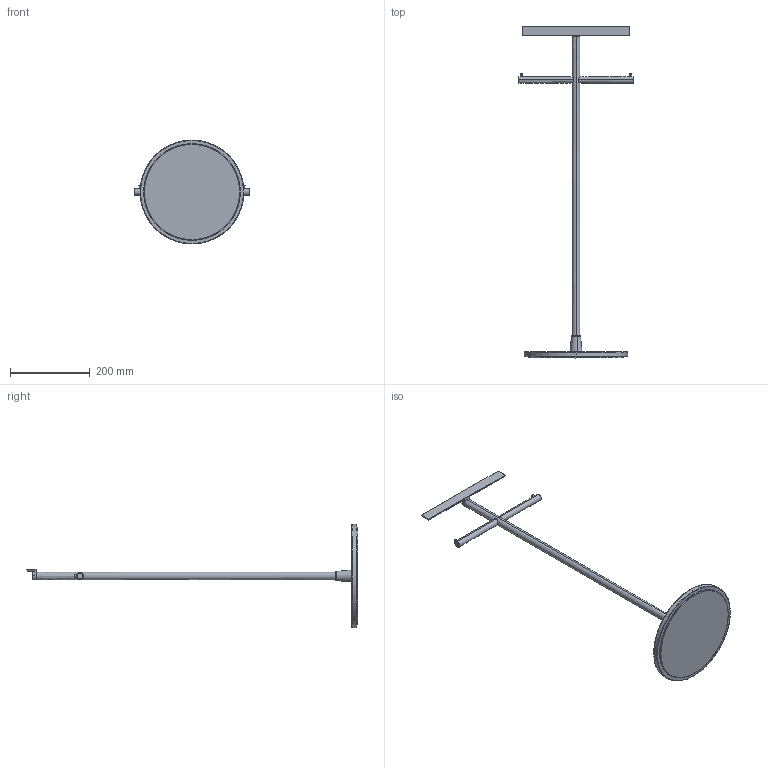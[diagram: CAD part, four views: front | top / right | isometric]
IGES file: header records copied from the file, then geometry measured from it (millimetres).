
Start section:  PTC IGES file: yh63sdt1.igs
Global section: file name: yh63sdt1.igs; native system: Pro/ENGINEER by Parametric Technology Corporation; preprocessor: 2010180; author: damjan; organization: Unknown; date: 20110223.123222; units: millimetre
Bounding box: 290 x 830 x 260 mm (x, y, z)
Volume: 1131624.7 mm3; surface area: 197997.5 mm2
Topology: 1 solids, 1 shells, 56 faces, 119 edges, 72 vertices
Faces by surface type: revolution 34, bspline 22
